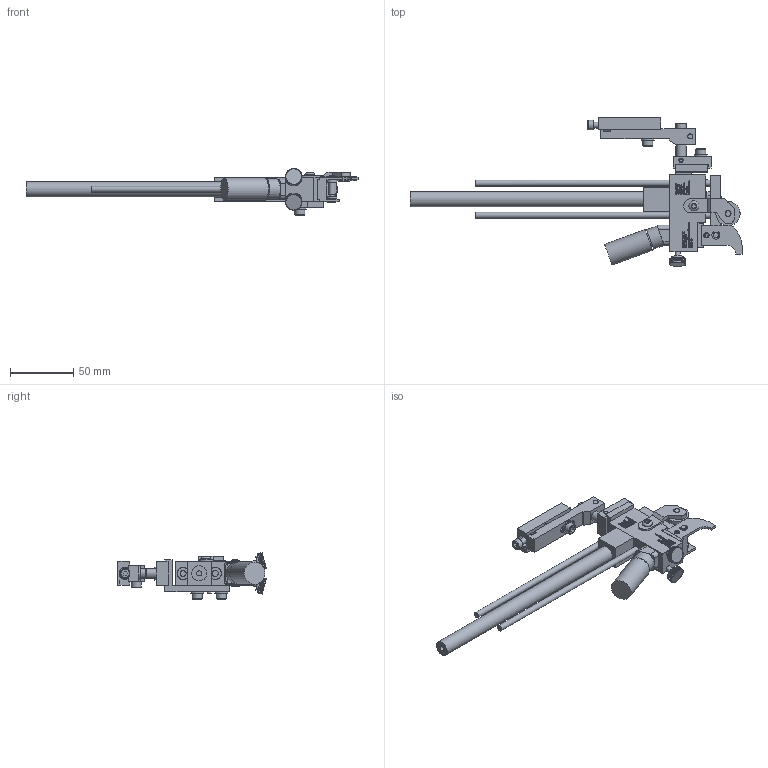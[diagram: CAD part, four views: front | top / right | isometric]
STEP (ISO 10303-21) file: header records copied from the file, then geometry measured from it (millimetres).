
FILE_DESCRIPTION((''),'2;1');
FILE_NAME('C:\Documents and Settings\Ron\My Documents\Inventor\Sprinter Drawing\Machines in Inventor\Model 44\Dot\3-sixteenth\Ext Str\E4\Brkt\Ret\Model 44 E4 .187 dia dot Ret w Brkt.stp','2009-01-26T12:58:24',('Ron'),(''),'Autodesk Inventor 2008','Autodesk Inventor 2008','');
FILE_SCHEMA(('AUTOMOTIVE_DESIGN { 1 0 10303 214 1 1 1 1 }'));
Length unit declared in the file: inch
Products named in the file (1): Model 44 E4 .187 dia dot Ret w Brkt
Bounding box: 261.77 x 117.12 x 36.82 mm (x, y, z)
Volume: 118446.4 mm3; surface area: 56884.3 mm2
Topology: 29 solids, 29 shells, 6207 faces, 15412 edges, 9533 vertices
Faces by surface type: plane 4368, bspline 1317, cylinder 471, cone 45, torus 6
Full cylindrical faces by diameter (mm): 3.175 x4, 3.302 x1, 3.962 x1, 4.064 x6, 4.166 x1, 4.699 x1, 4.75 x6, 4.775 x1, 4.826 x7, 5.144 x1, 5.156 x5, 5.207 x2, 5.41 x2, 6.096 x1, 6.274 x2, 6.68 x1, 7.239 x1, 7.62 x1, 7.925 x7, 7.938 x1, 8.128 x1, 9.017 x1, 9.525 x2, 10.312 x4, 10.922 x1, 11.036 x1, 11.938 x2, 12.522 x1, 14.478 x1, 16.256 x1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
Entity records: 197723 total; most frequent: CARTESIAN_POINT 54059, ORIENTED_EDGE 30386, DIRECTION 23635, EDGE_CURVE 15193, VECTOR 11407, LINE 11407, VERTEX_POINT 9471, EDGE_LOOP 6766
